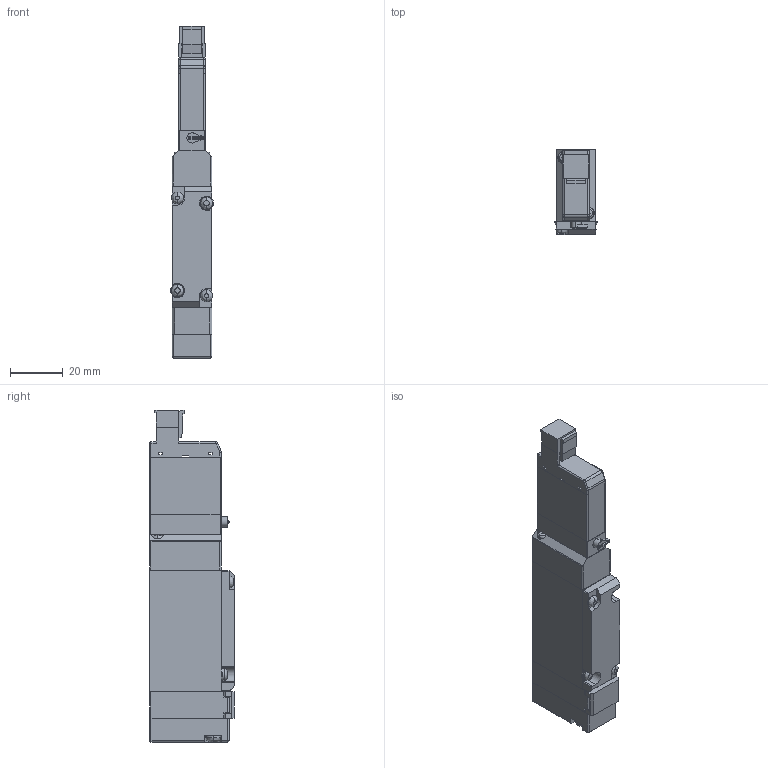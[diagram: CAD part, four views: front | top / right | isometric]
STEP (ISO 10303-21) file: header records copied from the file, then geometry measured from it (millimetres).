
FILE_DESCRIPTION( (''), '2;1');
FILE_NAME ('CVICAD02.3360.F15T1-R-A1-PS_21622.stp','2021-07-12T19:13:29',(''),(''),'spGate 12.6.6','','');
FILE_SCHEMA (('AUTOMOTIVE_DESIGN'));
Length unit declared in the file: millimetre
Products named in the file (8): Assembly; CVICAD02-prt0; CVICAD02-prt1; CVICAD02-prt2; CVICAD02-prt3; CVICAD02-prt4; CVICAD02-prt5; CVICAD02-prt6
Assembly tree (7 placements, depth 2):
  Assembly
    CVICAD02-prt0
    CVICAD02-prt1
    CVICAD02-prt2
    CVICAD02-prt3
    CVICAD02-prt4
    CVICAD02-prt5
    CVICAD02-prt6
Bounding box: 16.2 x 32 x 125.5 mm (x, y, z)
Volume: 45521.4 mm3; surface area: 17751.4 mm2
Topology: 7 solids, 7 shells, 381 faces, 1000 edges, 635 vertices
Faces by surface type: plane 223, cylinder 125, bspline 24, sphere 9
Entity records: 20020 total; most frequent: CARTESIAN_POINT 2715, ORIENTED_EDGE 1974, DIRECTION 1861, COLOUR_RGB 1375, PRESENTATION_STYLE_ASSIGNMENT 1375, STYLED_ITEM 1375, EDGE_CURVE 987, DRAUGHTING_PRE_DEFINED_CURVE_FONT 987
